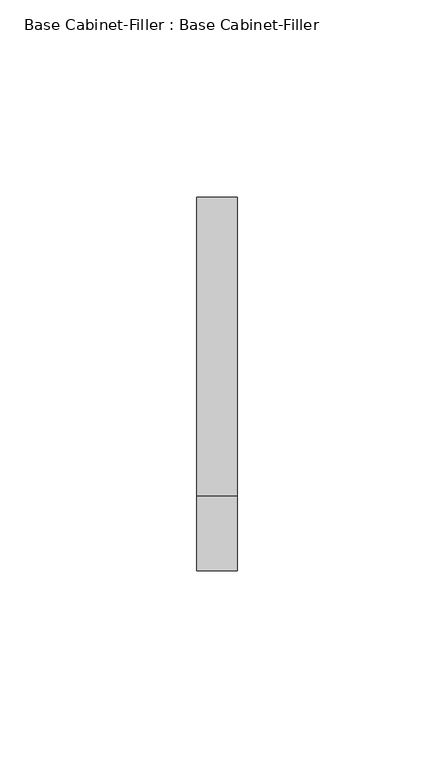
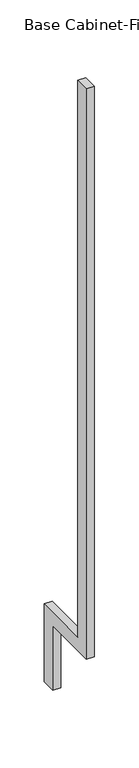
"""IFC4 building model written with IfcOpenShell, lengths in millimetres: furniture geometry, Base Cabinet-Filler : Base Cabinet-Filler."""

from ifc_helpers import new_model, si_unit, frame, origin, place, context, project, spatial, polyline, outline, extrude, source, transform, mapped, element, save


def base_cabinet_filler_base_cabinet_filler_ec835e29(model_context):
    return source(origin(), model_context, "Body", "SweptSolid", [
        extrude(outline(polyline([(-609.6, 88.9), (-609.6, 876.3), (-590.55, 876.3), (-590.55, 107.95), (-514.35, 107.95), (-514.35, 0.0), (-533.4, 0.0), (-533.4, 88.9), (-609.6, 88.9)])), frame((13.5524359, 0.0, 0.0), z_axis=(1.0, 0.0, 0.0), x_axis=(0.0, 1.0, 0.0)), (0.0, 0.0, 1.0), 10.3705381),
    ])


if __name__ == "__main__":
    model = new_model("IFC4")
    model_context = context("Model", 3, world=origin())
    ifc_project = project(units=[si_unit("LENGTHUNIT", "METRE", prefix="MILLI")], contexts=[model_context])
    site = spatial("IfcSite", under=ifc_project)
    building = spatial("IfcBuilding", under=site)
    placement = place(None, origin())
    base_cabinet_filler_base_cabinet_filler_shape = base_cabinet_filler_base_cabinet_filler_ec835e29(model_context)
    element("IfcFurniture", 1, ObjectType="Base Cabinet-Filler : Base Cabinet-Filler", at=placement, inside=building, context=model_context, shape_type="MappedRepresentation", body=[
        mapped(base_cabinet_filler_base_cabinet_filler_shape, transform((0.0, 0.0, 0.0), x_axis=(1.0, 0.0, 0.0), y_axis=(0.0, 1.0, 0.0), z_axis=(0.0, 0.0, 1.0))),
    ])
    save(model, "model.ifc")
